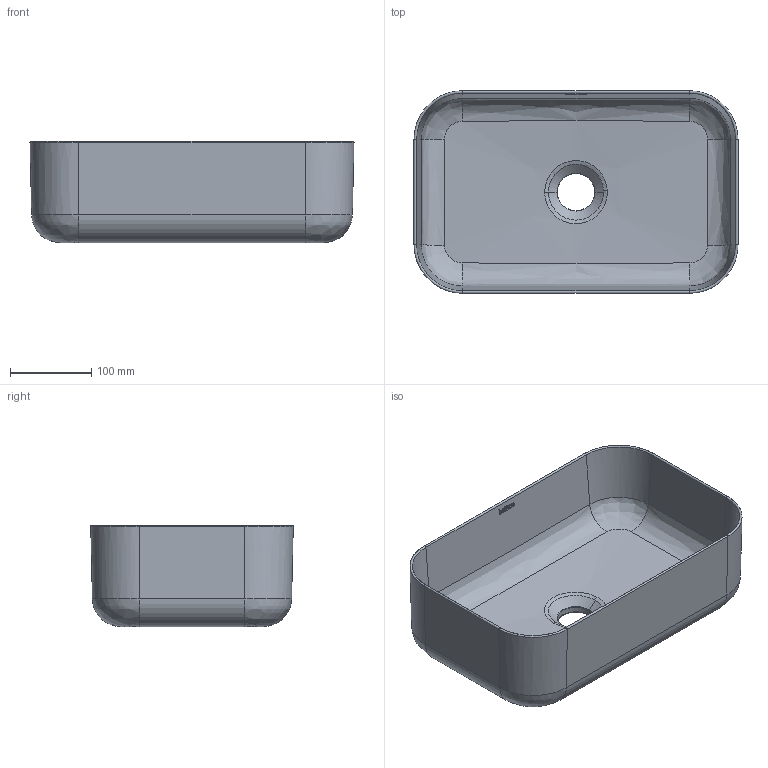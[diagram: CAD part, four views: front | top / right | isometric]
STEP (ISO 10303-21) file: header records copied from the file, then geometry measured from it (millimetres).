
FILE_DESCRIPTION(/* description */ (''),/* implementation_level */ '2;1');
FILE_NAME(/* name */ '4925_4927_4928_CUBE 40',/* time_stamp */ '2025-04-01T12:08:20+02:00',/* author */ (''),/* organization */ (''),/* preprocessor_version */ 'ST-DEVELOPER v19.2',/* originating_system */ 'Rhino 8.17',/* authorisation */ '');
FILE_SCHEMA (('CONFIG_CONTROL_DESIGN'));
Length unit declared in the file: millimetre
Products named in the file (1): Document
Bounding box: 400 x 250 x 125 mm (x, y, z)
Volume: 2660471.4 mm3; surface area: 414066.6 mm2
Topology: 7 solids, 7 shells, 120 faces, 279 edges, 173 vertices
Faces by surface type: plane 59, bspline 55, cylinder 6
Entity records: 8121 total; most frequent: CARTESIAN_POINT 6132, ORIENTED_EDGE 558, EDGE_CURVE 279, B_SPLINE_CURVE_WITH_KNOTS 190, VERTEX_POINT 173, EDGE_LOOP 128, ADVANCED_FACE 120, FACE_OUTER_BOUND 120
